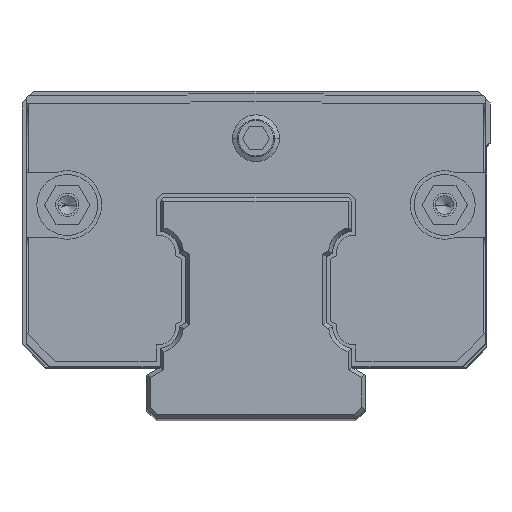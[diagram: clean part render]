
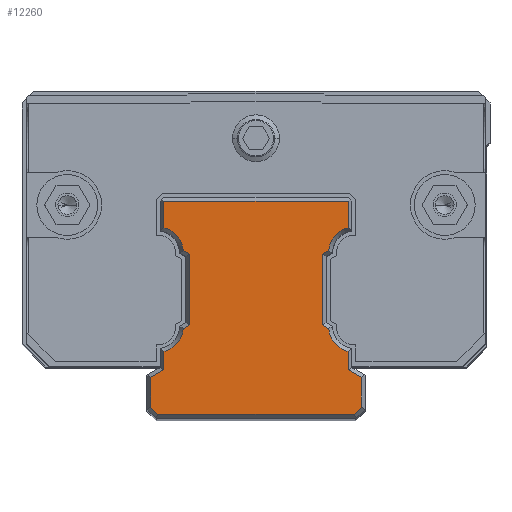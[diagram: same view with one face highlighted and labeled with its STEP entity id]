
A CAD part, top view. The second image highlights one B-rep face of the part: STEP entity #12260.
In plain terms, the highlighted planar face has unit normal (0, 0, 1).
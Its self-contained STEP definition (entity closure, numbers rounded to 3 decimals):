
#11574=DIRECTION('',(-1.,0.,0.));
#11575=VECTOR('',#11574,23.6);
#11576=CARTESIAN_POINT('',(11.8,11.35,89.85));
#11577=LINE('',#11576,#11575);
#11578=DIRECTION('',(0.,1.,0.));
#11579=VECTOR('',#11578,3.409);
#11580=CARTESIAN_POINT('',(11.8,7.941,89.85));
#11581=LINE('',#11580,#11579);
#11582=DIRECTION('',(0.866,0.5,0.));
#11583=VECTOR('',#11582,0.939);
#11584=CARTESIAN_POINT('',(8.5,4.539,89.85));
#11585=LINE('',#11584,#11583);
#11586=DIRECTION('',(0.,1.,0.));
#11587=VECTOR('',#11586,9.077);
#11588=CARTESIAN_POINT('',(8.5,-4.539,89.85));
#11589=LINE('',#11588,#11587);
#11590=DIRECTION('',(-0.866,0.5,0.));
#11591=VECTOR('',#11590,0.939);
#11592=CARTESIAN_POINT('',(9.313,-5.008,
89.85));
#11593=LINE('',#11592,#11591);
#11594=DIRECTION('',(0.,1.,0.));
#11595=VECTOR('',#11594,2.348);
#11596=CARTESIAN_POINT('',(11.8,-10.289,89.85));
#11597=LINE('',#11596,#11595);
#11598=DIRECTION('',(-0.866,0.5,0.));
#11599=VECTOR('',#11598,1.963);
#11600=CARTESIAN_POINT('',(13.5,-11.27,89.85));
#11601=LINE('',#11600,#11599);
#11602=DIRECTION('',(0.,1.,0.));
#11603=VECTOR('',#11602,3.823);
#11604=CARTESIAN_POINT('',(13.5,-15.093,89.85));
#11605=LINE('',#11604,#11603);
#11606=DIRECTION('',(0.707,0.707,0.));
#11607=VECTOR('',#11606,1.283);
#11608=CARTESIAN_POINT('',(12.593,-16.,89.85));
#11609=LINE('',#11608,#11607);
#11610=DIRECTION('',(1.,0.,0.));
#11611=VECTOR('',#11610,25.186);
#11612=CARTESIAN_POINT('',(-12.593,-16.,89.85));
#11613=LINE('',#11612,#11611);
#11614=DIRECTION('',(0.707,-0.707,0.));
#11615=VECTOR('',#11614,1.283);
#11616=CARTESIAN_POINT('',(-13.5,-15.093,89.85));
#11617=LINE('',#11616,#11615);
#11618=DIRECTION('',(0.,-1.,0.));
#11619=VECTOR('',#11618,3.823);
#11620=CARTESIAN_POINT('',(-13.5,-11.27,89.85));
#11621=LINE('',#11620,#11619);
#11622=DIRECTION('',(-0.866,-0.5,0.));
#11623=VECTOR('',#11622,1.963);
#11624=CARTESIAN_POINT('',(-11.8,-10.289,89.85));
#11625=LINE('',#11624,#11623);
#11626=DIRECTION('',(0.,-1.,0.));
#11627=VECTOR('',#11626,2.348);
#11628=CARTESIAN_POINT('',(-11.8,-7.941,
89.85));
#11629=LINE('',#11628,#11627);
#11630=DIRECTION('',(-0.866,-0.5,0.));
#11631=VECTOR('',#11630,0.939);
#11632=CARTESIAN_POINT('',(-8.5,-4.539,89.85));
#11633=LINE('',#11632,#11631);
#11634=DIRECTION('',(0.,-1.,0.));
#11635=VECTOR('',#11634,9.077);
#11636=CARTESIAN_POINT('',(-8.5,4.539,89.85));
#11637=LINE('',#11636,#11635);
#11638=DIRECTION('',(0.866,-0.5,0.));
#11639=VECTOR('',#11638,0.939);
#11640=CARTESIAN_POINT('',(-9.313,5.008,
89.85));
#11641=LINE('',#11640,#11639);
#11642=DIRECTION('',(0.,-1.,0.));
#11643=VECTOR('',#11642,3.409);
#11644=CARTESIAN_POINT('',(-11.8,11.35,89.85));
#11645=LINE('',#11644,#11643);
#11673=CARTESIAN_POINT('',(-12.658,4.692,89.85));
#11674=DIRECTION('',(0.,0.,-1.));
#11675=DIRECTION('',(0.255,0.967,0.));
#11676=AXIS2_PLACEMENT_3D('',#11673,#11674,#11675);
#11733=CARTESIAN_POINT('',(-12.658,-4.692,89.85));
#11734=DIRECTION('',(0.,0.,-1.));
#11735=DIRECTION('',(0.996,-0.094,0.));
#11736=AXIS2_PLACEMENT_3D('',#11733,#11734,#11735);
#11865=CARTESIAN_POINT('',(12.658,-4.692,89.85));
#11866=DIRECTION('',(0.,0.,-1.));
#11867=DIRECTION('',(-0.255,-0.967,0.));
#11868=AXIS2_PLACEMENT_3D('',#11865,#11866,#11867);
#11930=CARTESIAN_POINT('',(12.658,4.692,89.85));
#11931=DIRECTION('',(0.,0.,-1.));
#11932=DIRECTION('',(-0.996,0.094,0.));
#11933=AXIS2_PLACEMENT_3D('',#11930,#11931,#11932);
#12022=CARTESIAN_POINT('',(11.8,11.35,89.85));
#12023=CARTESIAN_POINT('',(-11.8,11.35,89.85));
#12024=VERTEX_POINT('',#12022);
#12025=VERTEX_POINT('',#12023);
#12030=CARTESIAN_POINT('',(11.8,7.941,89.85));
#12031=VERTEX_POINT('',#12030);
#12036=CARTESIAN_POINT('',(8.5,4.539,89.85));
#12037=CARTESIAN_POINT('',(9.313,5.008,89.85));
#12038=VERTEX_POINT('',#12036);
#12039=VERTEX_POINT('',#12037);
#12042=CARTESIAN_POINT('',(8.5,-4.539,89.85));
#12043=VERTEX_POINT('',#12042);
#12044=CARTESIAN_POINT('',(9.313,-5.008,
89.85));
#12045=VERTEX_POINT('',#12044);
#12052=CARTESIAN_POINT('',(11.8,-10.289,89.85));
#12053=CARTESIAN_POINT('',(11.8,-7.941,
89.85));
#12054=VERTEX_POINT('',#12052);
#12055=VERTEX_POINT('',#12053);
#12058=CARTESIAN_POINT('',(13.5,-11.27,89.85));
#12059=VERTEX_POINT('',#12058);
#12062=CARTESIAN_POINT('',(13.5,-15.093,89.85));
#12063=VERTEX_POINT('',#12062);
#12066=CARTESIAN_POINT('',(12.593,-16.,89.85));
#12067=VERTEX_POINT('',#12066);
#12070=CARTESIAN_POINT('',(-12.593,-16.,89.85));
#12071=VERTEX_POINT('',#12070);
#12074=CARTESIAN_POINT('',(-13.5,-15.093,89.85));
#12075=VERTEX_POINT('',#12074);
#12078=CARTESIAN_POINT('',(-13.5,-11.27,89.85));
#12079=VERTEX_POINT('',#12078);
#12082=CARTESIAN_POINT('',(-11.8,-10.289,89.85));
#12083=VERTEX_POINT('',#12082);
#12086=CARTESIAN_POINT('',(-11.8,-7.941,
89.85));
#12087=VERTEX_POINT('',#12086);
#12092=CARTESIAN_POINT('',(-8.5,-4.539,89.85));
#12093=CARTESIAN_POINT('',(-9.313,-5.008,
89.85));
#12094=VERTEX_POINT('',#12092);
#12095=VERTEX_POINT('',#12093);
#12098=CARTESIAN_POINT('',(-8.5,4.539,89.85));
#12099=VERTEX_POINT('',#12098);
#12102=CARTESIAN_POINT('',(-9.313,5.008,
89.85));
#12103=VERTEX_POINT('',#12102);
#12106=CARTESIAN_POINT('',(-11.8,7.941,
89.85));
#12107=VERTEX_POINT('',#12106);
#12211=CARTESIAN_POINT('',(0.,0.,89.85));
#12212=DIRECTION('',(0.,0.,1.));
#12213=DIRECTION('',(1.,0.,0.));
#12214=AXIS2_PLACEMENT_3D('',#12211,#12212,#12213);
#12215=PLANE('',#12214);
#12217=ORIENTED_EDGE('',*,*,#12216,.F.);
#12219=ORIENTED_EDGE('',*,*,#12218,.F.);
#12221=ORIENTED_EDGE('',*,*,#12220,.F.);
#12223=ORIENTED_EDGE('',*,*,#12222,.F.);
#12224=ORIENTED_EDGE('',*,*,#12189,.F.);
#12225=ORIENTED_EDGE('',*,*,#12201,.F.);
#12227=ORIENTED_EDGE('',*,*,#12226,.F.);
#12229=ORIENTED_EDGE('',*,*,#12228,.F.);
#12231=ORIENTED_EDGE('',*,*,#12230,.F.);
#12233=ORIENTED_EDGE('',*,*,#12232,.F.);
#12235=ORIENTED_EDGE('',*,*,#12234,.F.);
#12237=ORIENTED_EDGE('',*,*,#12236,.F.);
#12239=ORIENTED_EDGE('',*,*,#12238,.F.);
#12241=ORIENTED_EDGE('',*,*,#12240,.F.);
#12243=ORIENTED_EDGE('',*,*,#12242,.F.);
#12245=ORIENTED_EDGE('',*,*,#12244,.F.);
#12247=ORIENTED_EDGE('',*,*,#12246,.F.);
#12249=ORIENTED_EDGE('',*,*,#12248,.F.);
#12251=ORIENTED_EDGE('',*,*,#12250,.F.);
#12253=ORIENTED_EDGE('',*,*,#12252,.F.);
#12255=ORIENTED_EDGE('',*,*,#12254,.F.);
#12257=ORIENTED_EDGE('',*,*,#12256,.F.);
#12258=EDGE_LOOP('',(#12217,#12219,#12221,#12223,#12224,#12225,#12227,#12229,
#12231,#12233,#12235,#12237,#12239,#12241,#12243,#12245,#12247,#12249,#12251,
#12253,#12255,#12257));
#12259=FACE_OUTER_BOUND('',#12258,.F.);
#11677=CIRCLE('',#11676,3.36);
#11737=CIRCLE('',#11736,3.36);
#11869=CIRCLE('',#11868,3.36);
#11934=CIRCLE('',#11933,3.36);
#12189=EDGE_CURVE('',#12043,#12038,#11589,.T.);
#12201=EDGE_CURVE('',#12045,#12043,#11593,.T.);
#12216=EDGE_CURVE('',#12024,#12025,#11577,.T.);
#12218=EDGE_CURVE('',#12031,#12024,#11581,.T.);
#12220=EDGE_CURVE('',#12039,#12031,#11934,.T.);
#12222=EDGE_CURVE('',#12038,#12039,#11585,.T.);
#12226=EDGE_CURVE('',#12055,#12045,#11869,.T.);
#12228=EDGE_CURVE('',#12054,#12055,#11597,.T.);
#12230=EDGE_CURVE('',#12059,#12054,#11601,.T.);
#12232=EDGE_CURVE('',#12063,#12059,#11605,.T.);
#12234=EDGE_CURVE('',#12067,#12063,#11609,.T.);
#12236=EDGE_CURVE('',#12071,#12067,#11613,.T.);
#12238=EDGE_CURVE('',#12075,#12071,#11617,.T.);
#12240=EDGE_CURVE('',#12079,#12075,#11621,.T.);
#12242=EDGE_CURVE('',#12083,#12079,#11625,.T.);
#12244=EDGE_CURVE('',#12087,#12083,#11629,.T.);
#12246=EDGE_CURVE('',#12095,#12087,#11737,.T.);
#12248=EDGE_CURVE('',#12094,#12095,#11633,.T.);
#12250=EDGE_CURVE('',#12099,#12094,#11637,.T.);
#12252=EDGE_CURVE('',#12103,#12099,#11641,.T.);
#12254=EDGE_CURVE('',#12107,#12103,#11677,.T.);
#12256=EDGE_CURVE('',#12025,#12107,#11645,.T.);
#12260=ADVANCED_FACE('',(#12259),#12215,.T.);
